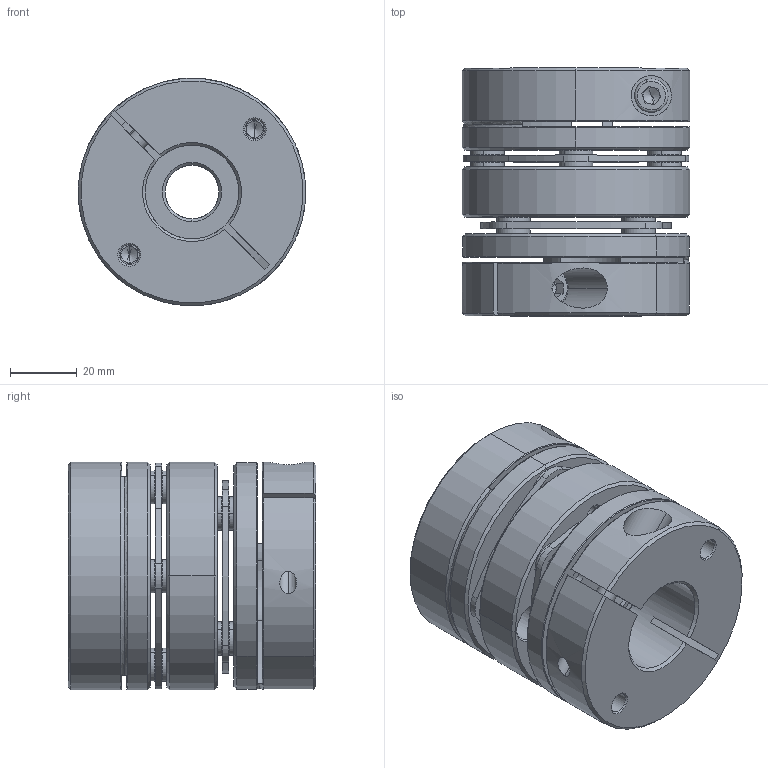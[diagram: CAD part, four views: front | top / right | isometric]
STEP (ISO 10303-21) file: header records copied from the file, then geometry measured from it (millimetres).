
FILE_DESCRIPTION (( 'STEP AP203' ), '1' );
FILE_NAME ('LD2-D68-16-28.STEP', '2021-10-26T08:19:38', ( '' ), ( '' ), 'SwSTEP 2.0', 'SolidWorks 2018', '' );
FILE_SCHEMA (( 'CONFIG_CONTROL_DESIGN' ));
Length unit declared in the file: millimetre
Products named in the file (2): 錨璃102^LD2-D68; LD2-D68-16-28
Assembly tree (1 placements, depth 2):
  LD2-D68-16-28
    錨璃102^LD2-D68
Bounding box: 68 x 74 x 68 mm (x, y, z)
Volume: 185443.9 mm3; surface area: 64250.9 mm2
Topology: 1 solids, 27 shells, 734 faces, 1712 edges, 1042 vertices
Faces by surface type: cylinder 256, cone 226, plane 222, torus 30
Entity records: 21554 total; most frequent: DIRECTION 4004, CARTESIAN_POINT 3937, ORIENTED_EDGE 3376, EDGE_CURVE 1688, AXIS2_PLACEMENT_3D 1625, VERTEX_POINT 1042, CIRCLE 887, EDGE_LOOP 870
